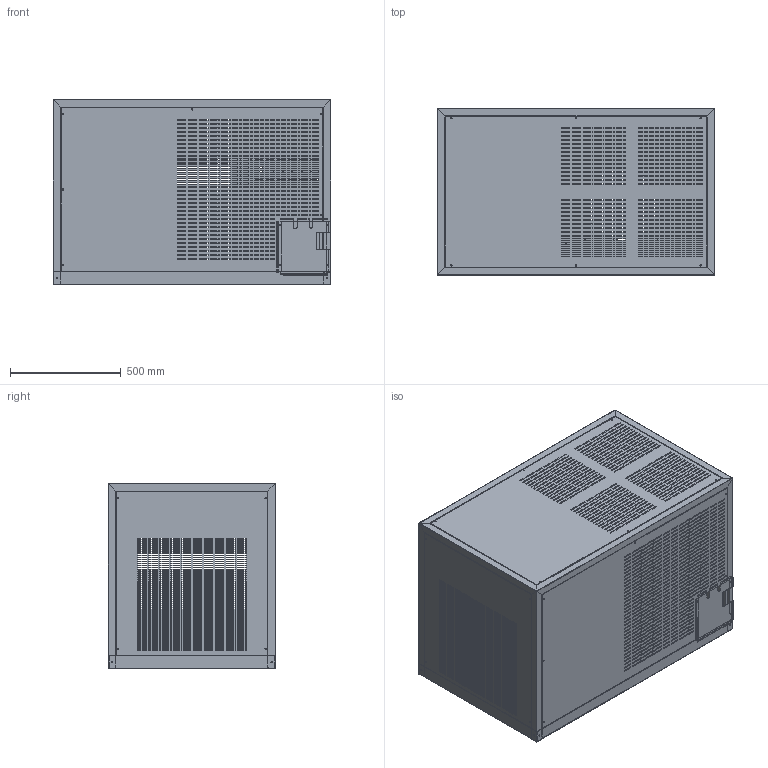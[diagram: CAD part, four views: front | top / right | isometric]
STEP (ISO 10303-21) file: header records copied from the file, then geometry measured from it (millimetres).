
FILE_DESCRIPTION(/* description */ ('Unknown'),/* implementation_level */ '2;1');
FILE_NAME(/* name */ 'SCALA_600',/* time_stamp */ '2018-04-24T08:06:24+02:00',/* author */ ('Unknown'),/* organization */ ('Unknown'),/* preprocessor_version */ 'ST-DEVELOPER v16.7',/* originating_system */ 'DEX',/* authorisation */ $);
FILE_SCHEMA (('CONFIG_CONTROL_DESIGN'));
Products named in the file (17): SCALA_600; SC-38; SC-40; SC-43; SC-44; SC-42; SC-45; SC-5_oa_0; SC-2; SC-3; SC-32; SC-36; SC-34; SC-33; SC-35; SC-41; SC-37
Assembly tree (21 placements, depth 3):
  SCALA_600
    SC-38  x2
    SC-40
    SC-43
    SC-44
    SC-42
    SC-45
    SC-5_oa_0
      SC-2
      SC-3
    SC-32
      SC-36
      SC-34  x2
      SC-33  x3
      SC-35  x2
    SC-41
    SC-37
Bounding box: 1254.4 x 756.7 x 835.2 mm (x, y, z)
Volume: 5491389.3 mm3; surface area: 11592775.4 mm2
Topology: 19 solids, 19 shells, 9527 faces, 28193 edges, 18704 vertices
Faces by surface type: plane 9056, cylinder 397, bspline 74
Full cylindrical faces by diameter (mm): 2.75 x4, 3.5 x4, 4 x16, 4.134 x10, 4.25 x1, 4.917 x8, 5.5 x2, 6 x61, 6.647 x4, 7 x33, 9 x5, 10 x2, 10.106 x4, 11 x4, 14 x1, 326 x1
Entity records: 235845 total; most frequent: CARTESIAN_POINT 42170, ORIENTED_EDGE 40934, DIRECTION 34830, EDGE_CURVE 20467, LINE 19742, VECTOR 19742, VERTEX_POINT 13648, EDGE_LOOP 10433
